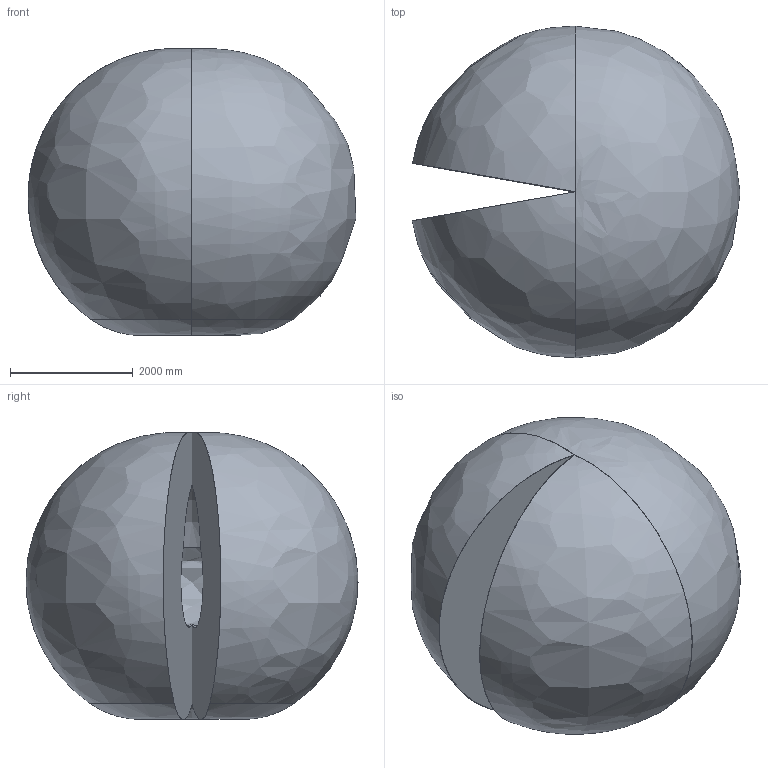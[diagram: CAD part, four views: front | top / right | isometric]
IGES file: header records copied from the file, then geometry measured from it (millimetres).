
Start section: SolidWorks IGES file using analytic representation for surfaces
Global section: file name: C:\Users\SEALDUN\OneDrive - ABB\Documents\R&D Robotics\Work Items\WI 632927 light weight hole removal\5710_Lightweight_AllFormats\IGES\IRB5710_90kg-270_OC_03_IGES_J\IRB5710_90kg-270_OmniCore_rev01_Working-space.igs; native system: SolidWorks 2024; preprocessor: SolidWorks 2024; author: SEALDUN; date: 250709.173722; units: millimetre
Bounding box: 5335.75 x 5401.97 x 4670.11 mm (x, y, z)
Surface area: 112655308.5 mm2 (no closed solid volume)
Topology: 0 solids, 0 shells, 14 faces, 244 edges, 232 vertices
Faces by surface type: bspline 14
